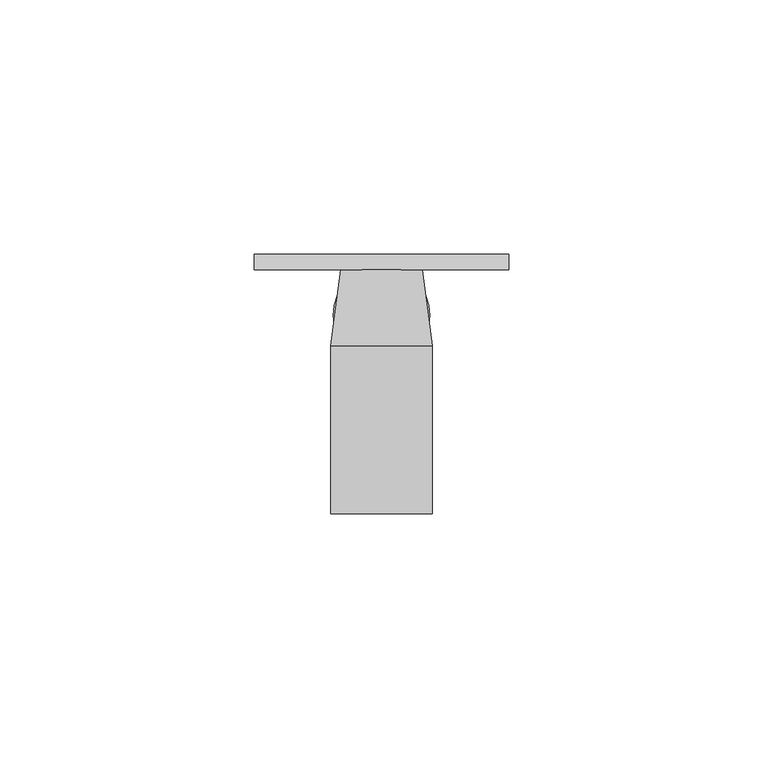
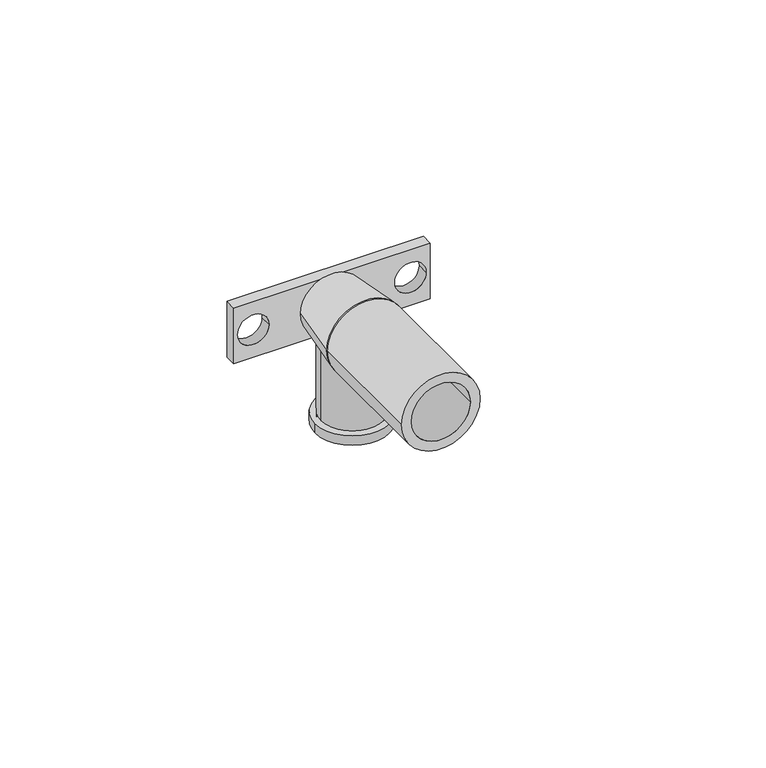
"""IFC4 building model written with IfcOpenShell, lengths in millimetres: pipe fitting geometry, БИР ПЕКС_НПР_Водорозетка : Водорозетка 1/2''x16."""

from ifc_helpers import new_model, si_unit, point, frame, frame_2d, origin, origin_2d, place, context, project, spatial, polyline, circle_curve, trimmed, segment, composite_curve, outline, extrude, source, transform, mapped, element, save
from ifc_brep_helpers import plane_surface, revolved_surface, advanced_brep


def pipe_fitting_b413269e(model_context):
    return source(origin(), model_context, "Body", "SolidModel", [
        advanced_brep(
        [(-8.0, -3.0, 0.0), (8.0, -3.0, 0.0), (-10.0, -18.0, 0.0), (10.0, -18.0, 0.0)],
        [
            (0, 1, circle_curve(frame((0.0, -3.0, 0.0), z_axis=(0.0, 1.0, 0.0), x_axis=(-1.0, 0.0, 0.0)), 8.0)),
            (1, 0, circle_curve(frame((0.0, -3.0, 0.0), z_axis=(0.0, 1.0, 0.0), x_axis=(1.0, 0.0, 0.0)), 8.0)),
            (2, 3, circle_curve(frame((0.0, -18.0, 0.0), z_axis=(0.0, -1.0, 0.0), x_axis=(1.0, 0.0, 0.0)), 10.0)),
            (3, 2, circle_curve(frame((0.0, -18.0, 0.0), z_axis=(0.0, -1.0, 0.0), x_axis=(-1.0, 0.0, 0.0)), 10.0)),
            (2, 0),
            (1, 3),
        ],
        [
            plane_surface(frame((0.0, -3.0, 0.0), z_axis=(0.0, 1.0, 0.0), x_axis=(0.0, 0.0, -1.0))),
            plane_surface(frame((0.0, -18.0, 0.0), z_axis=(0.0, -1.0, 0.0), x_axis=(0.0, 0.0, -1.0))),
            revolved_surface(polyline([(8.0, -3.0, 0.0), (10.0, -18.0, 0.0)]), (0.0, 57.0, 0.0), (0.0, -1.0, 0.0)),
            revolved_surface(polyline([(-8.0, -3.0, 0.0), (-10.0, -18.0, 0.0)]), (0.0, 57.0, 0.0), (0.0, -1.0, 0.0)),
        ],
        [
            (0, [[1, 2]]),
            (1, [[3, 4]]),
            (2, [[-3, 5, -2, 6]]),
            (3, [[-4, -6, -1, -5]]),
        ],
    ),
        extrude(outline(composite_curve([segment(trimmed(circle_curve(origin_2d(), 10.0), [point((0.0, -10.0))], [point((0.0, 10.0))], False, "CARTESIAN"), True, "CONTINUOUS"), segment(trimmed(circle_curve(origin_2d(), 10.0), [point((0.0, 10.0))], [point((0.0, -10.0))], False, "CARTESIAN"), True, "CONTINUOUS")], self_intersect=False), holes=[composite_curve([segment(trimmed(circle_curve(origin_2d(), 7.5), [point((0.0, -7.5))], [point((0.0, 7.5))], True, "CARTESIAN"), True, "CONTINUOUS"), segment(trimmed(circle_curve(origin_2d(), 7.5), [point((0.0, 7.5))], [point((0.0, -7.5))], True, "CARTESIAN"), True, "CONTINUOUS")], self_intersect=False)]), frame((0.0, -51.0, 0.0), z_axis=(0.0, 1.0, 0.0), x_axis=(0.0, 0.0, 1.0)), (0.0, 0.0, 1.0), 33.0),
        extrude(outline(composite_curve([segment(trimmed(circle_curve(frame_2d((0.0, -12.0)), 9.5), [point((-9.5, -12.0))], [point((9.5, -12.0))], False, "CARTESIAN"), True, "CONTINUOUS"), segment(trimmed(circle_curve(frame_2d((0.0, -12.0)), 9.5), [point((9.5, -12.0))], [point((-9.5, -12.0))], False, "CARTESIAN"), True, "CONTINUOUS")], self_intersect=False), holes=[composite_curve([segment(trimmed(circle_curve(frame_2d((0.0, -12.0)), 6.5), [point((-6.5, -12.0))], [point((6.5, -12.0))], True, "CARTESIAN"), True, "CONTINUOUS"), segment(trimmed(circle_curve(frame_2d((0.0, -12.0)), 6.5), [point((6.5, -12.0))], [point((-6.5, -12.0))], True, "CARTESIAN"), True, "CONTINUOUS")], self_intersect=False)]), frame((0.0, 0.0, -26.0), z_axis=(0.0, 0.0, 1.0), x_axis=(1.0, 0.0, 0.0)), (0.0, 0.0, 1.0), 2.5),
        extrude(outline(composite_curve([segment(trimmed(circle_curve(frame_2d((0.0, -12.0)), 8.0), [point((-8.0, -12.0))], [point((8.0, -12.0))], False, "CARTESIAN"), True, "CONTINUOUS"), segment(trimmed(circle_curve(frame_2d((0.0, -12.0)), 8.0), [point((8.0, -12.0))], [point((-8.0, -12.0))], False, "CARTESIAN"), True, "CONTINUOUS")], self_intersect=False), holes=[composite_curve([segment(trimmed(circle_curve(frame_2d((0.0, -12.0)), 6.5), [point((-6.5, -12.0))], [point((6.5, -12.0))], True, "CARTESIAN"), True, "CONTINUOUS"), segment(trimmed(circle_curve(frame_2d((0.0, -12.0)), 6.5), [point((6.5, -12.0))], [point((-6.5, -12.0))], True, "CARTESIAN"), True, "CONTINUOUS")], self_intersect=False)]), frame((0.0, 0.0, -26.0), z_axis=(0.0, 0.0, 1.0), x_axis=(1.0, 0.0, 0.0)), (0.0, 0.0, 1.0), 26.0),
        extrude(outline(polyline([(7.5, 25.0), (7.5, -25.0), (-7.5, -25.0), (-7.5, 25.0), (7.5, 25.0)]), holes=[composite_curve([segment(trimmed(circle_curve(frame_2d((0.0, -20.0)), 4.0), [point((0.0, -24.0))], [point((0.0, -16.0))], True, "CARTESIAN"), True, "CONTINUOUS"), segment(trimmed(circle_curve(frame_2d((0.0, -20.0)), 4.0), [point((0.0, -16.0))], [point((0.0, -24.0))], True, "CARTESIAN"), True, "CONTINUOUS")], self_intersect=False), composite_curve([segment(trimmed(circle_curve(frame_2d((0.0, 20.0)), 4.0), [point((0.0, 16.0))], [point((0.0, 24.0))], True, "CARTESIAN"), True, "CONTINUOUS"), segment(trimmed(circle_curve(frame_2d((0.0, 20.0)), 4.0), [point((0.0, 24.0))], [point((0.0, 16.0))], True, "CARTESIAN"), True, "CONTINUOUS")], self_intersect=False)]), frame((0.0, -3.0, 0.0), z_axis=(0.0, 1.0, 0.0), x_axis=(0.0, 0.0, 1.0)), (0.0, 0.0, 1.0), 3.0),
    ])


if __name__ == "__main__":
    model = new_model("IFC4")
    model_context = context("Model", 3, world=origin())
    ifc_project = project(units=[si_unit("LENGTHUNIT", "METRE", prefix="MILLI")], contexts=[model_context])
    site = spatial("IfcSite", under=ifc_project)
    building = spatial("IfcBuilding", under=site)
    placement = place(None, origin())
    pipe_fitting_shape = pipe_fitting_b413269e(model_context)
    element("IfcPipeFitting", 1, ObjectType="БИР ПЕКС_НПР_Водорозетка : Водорозетка 1/2''x16", at=placement, inside=building, context=model_context, shape_type="MappedRepresentation", body=[
        mapped(pipe_fitting_shape, transform((0.0, 0.0, 0.0), x_axis=(1.0, 0.0, 0.0), y_axis=(0.0, 1.0, 0.0), z_axis=(0.0, 0.0, 1.0))),
    ])
    save(model, "model.ifc")
